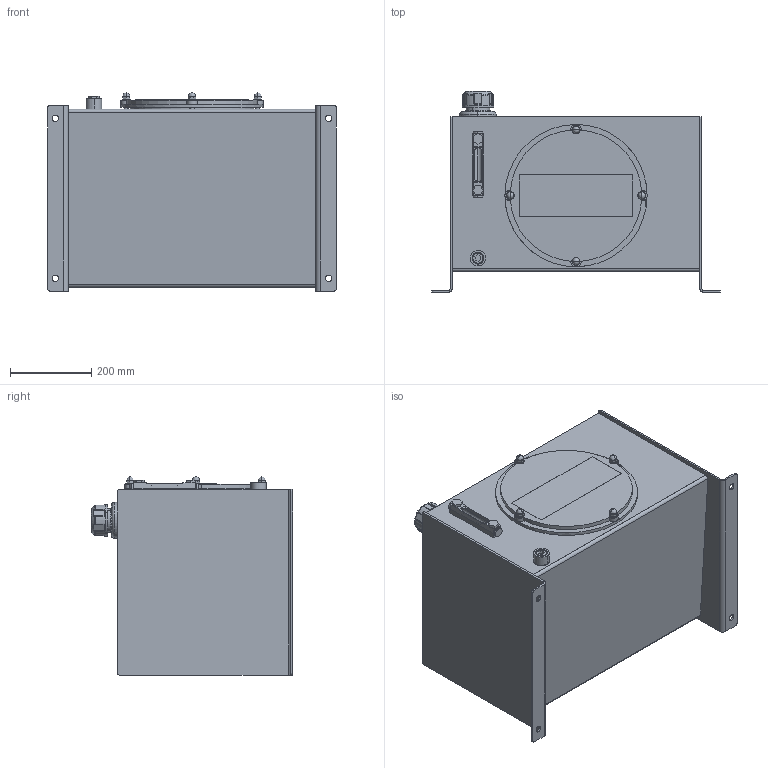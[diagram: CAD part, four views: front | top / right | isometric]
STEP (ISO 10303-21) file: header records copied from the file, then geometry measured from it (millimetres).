
FILE_DESCRIPTION (( 'STEP AP203' ), '1' );
FILE_NAME ('RDIN020-CFA.STEP', '2018-03-02T18:00:03', ( 'Windows User' ), ( '' ), 'SwSTEP 2.0', 'SolidWorks 2017', '' );
FILE_SCHEMA (( 'CONFIG_CONTROL_DESIGN' ));
Length unit declared in the file: inch
Products named in the file (20): REC-M350K; RDIN020-CFA-BODY_RJIC020-BODY; BHS8100-15350-P; FB-S-W; QSTSBUR00080008; RDIN020-CFA-REND; 8162-008-2_4534K45; RHJ-PLUG-200; FB-H008W; REC-M350C-4; FB-F008_FB-F-008; RDIN020-CFA; RDIN020-CFA-TOP; WFZM010; Weld Riser; RDIN020-CFA-LEND; PLLG-05T; S12; RHJ-PLUG-016; FB-C-H_FB-H008W
Assembly tree (26 placements, depth 3):
  RHJ-PLUG-200
  RDIN020-CFA
    RDIN020-CFA-BODY_RJIC020-BODY
    RDIN020-CFA-LEND
    RDIN020-CFA-REND
    RDIN020-CFA-TOP
    Weld Riser
    FB-H008W
      FB-F008_FB-F-008
      FB-S-W
      FB-C-H_FB-H008W
    BHS8100-15350-P  x4
    PLLG-05T
    REC-M350K
      REC-M350C-4
      WFZM010  x4
    S12
    8162-008-2_4534K45
    QSTSBUR00080008  x4
  RHJ-PLUG-016
Bounding box: 711.2 x 494.92 x 487.92 mm (x, y, z)
Volume: 6590613.4 mm3; surface area: 3212752.8 mm2
Topology: 31 solids, 31 shells, 1062 faces, 2504 edges, 1502 vertices
Faces by surface type: cylinder 387, plane 341, torus 102, cone 96, bspline 88, sphere 48
Entity records: 33871 total; most frequent: CARTESIAN_POINT 9396, DIRECTION 4875, ORIENTED_EDGE 4492, EDGE_CURVE 2246, AXIS2_PLACEMENT_3D 1968, VERTEX_POINT 1349, EDGE_LOOP 1083, CIRCLE 1065
